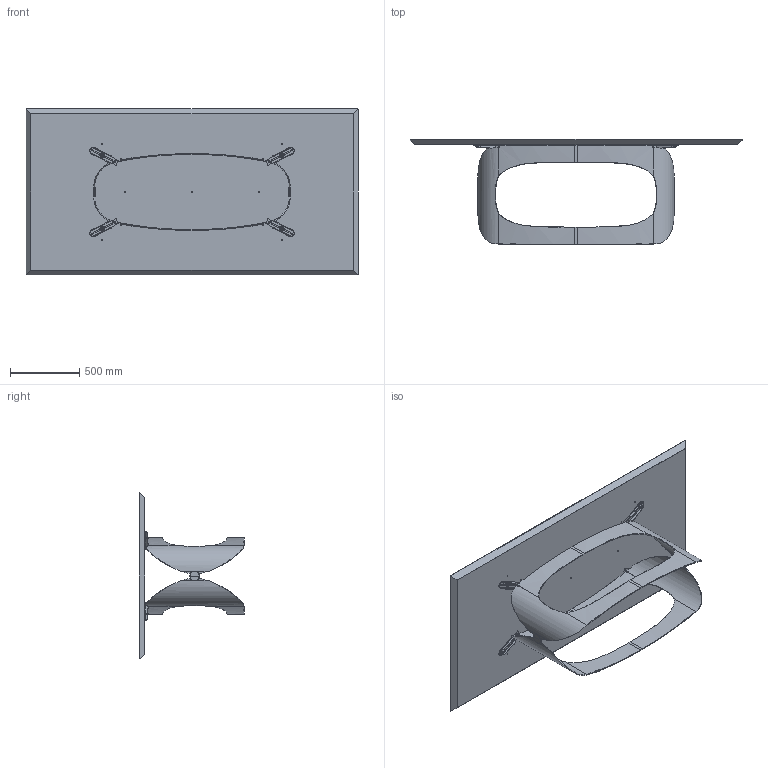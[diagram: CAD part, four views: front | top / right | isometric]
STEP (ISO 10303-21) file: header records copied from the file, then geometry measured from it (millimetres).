
FILE_DESCRIPTION (( 'STEP AP203' ), '1' );
FILE_NAME ('PO23W.STEP', '2024-08-06T14:06:10', ( '' ), ( '' ), 'SwSTEP 2.0', 'SolidWorks 2022', '' );
FILE_SCHEMA (( 'CONFIG_CONTROL_DESIGN' ));
Length unit declared in the file: millimetre
Products named in the file (15): POL000000_03A-01-POLIFEMO FREGIO; POLPIA000V01-00-POLIFEMO PIASTRA X FISSAGGIO TOP LEG-MAR; Vite Legno 4xXX testa piana_S4.5x25; POL000000_02-02-CILINDRO DI FISSAGGIO Ø12X15 M8; POL000000_03B-00-POLIFEMO FREGIO; W2XCMXX-00-Piani Rettangolari in legno_2400 x 1200; rondella M8_8X32; PVC profilo Polifemo 9x8; POL000000_03-01-POLIFEMO FREGIO COMPLETO; POL000000-00-POLIFEMO BASE X PIANI 200-240_POL000000-00-POLIFEMO BASE L160; POL000000_01-01-MEZZA BASE POLIFEMO X PIANI 200-240_POL000000_03-00-MEZZA BASE PLIFEMO L160; GRANO M8X35_barra; M8xXXmm_hex_M8X16mm; PO23W; nut_M8_M8
Assembly tree (41 placements, depth 3):
  PO23W
    POL000000-00-POLIFEMO BASE X PIANI 200-240_POL000000-00-POLIFEMO BASE L160
      POL000000_01-01-MEZZA BASE POLIFEMO X PIANI 200-240_POL000000_03-00-MEZZA BASE PLIFEMO L160  x2
      POL000000_02-02-CILINDRO DI FISSAGGIO Ø12X15 M8  x4
    POL000000_03-01-POLIFEMO FREGIO COMPLETO  x2
      POL000000_03A-01-POLIFEMO FREGIO
      POL000000_03B-00-POLIFEMO FREGIO
    PVC profilo Polifemo 9x8  x4
    POLPIA000V01-00-POLIFEMO PIASTRA X FISSAGGIO TOP LEG-MAR  x4
    M8xXXmm_hex_M8X16mm  x4
    GRANO M8X35_barra  x4
    nut_M8_M8  x4
    rondella M8_8X32  x4
    Vite Legno 4xXX testa piana_S4.5x25  x4
    W2XCMXX-00-Piani Rettangolari in legno_2400 x 1200
Bounding box: 2400 x 759.97 x 1200 mm (x, y, z)
Volume: 112498809.9 mm3; surface area: 8544419.9 mm2
Topology: 41 solids, 41 shells, 1358 faces, 3314 edges, 1957 vertices
Faces by surface type: cylinder 452, plane 412, torus 180, bspline 128, cone 122, sphere 64
Entity records: 26904 total; most frequent: CARTESIAN_POINT 14547, DIRECTION 2108, ORIENTED_EDGE 2080, EDGE_CURVE 1040, AXIS2_PLACEMENT_3D 844, VERTEX_POINT 633, EDGE_LOOP 479, ADVANCED_FACE 448
